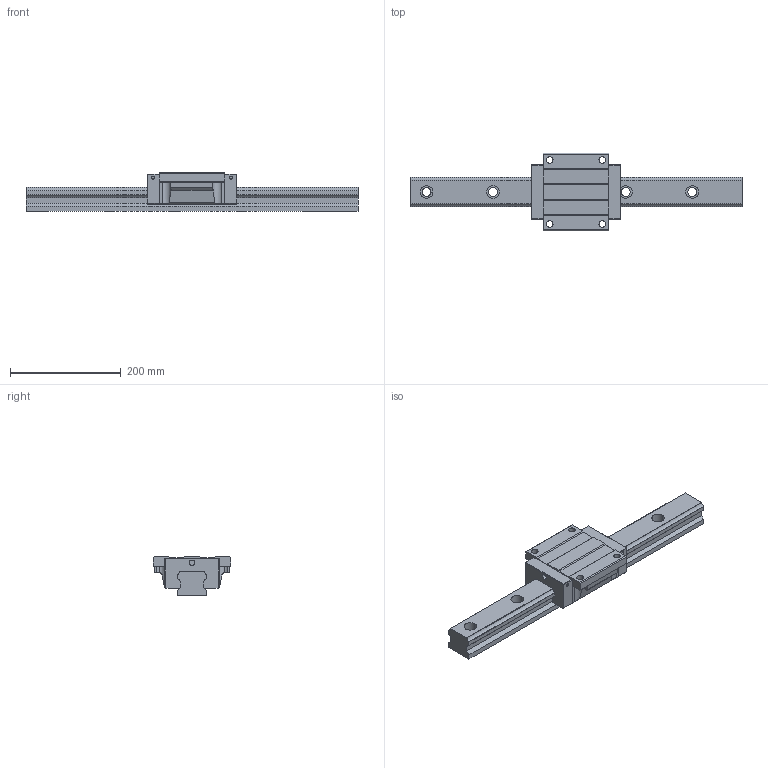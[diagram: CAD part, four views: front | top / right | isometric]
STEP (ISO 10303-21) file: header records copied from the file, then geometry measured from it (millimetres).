
FILE_DESCRIPTION (( 'STEP AP203' ), '1' );
FILE_NAME ('TRH55FL-XN.STEP', '2024-05-13T06:39:51', ( '' ), ( '' ), 'SwSTEP 2.0', 'SolidWorks 2022', '' );
FILE_SCHEMA (( 'CONFIG_CONTROL_DESIGN' ));
Length unit declared in the file: millimetre
Products named in the file (1): TRH55FL-XN
Bounding box: 600 x 140 x 70 mm (x, y, z)
Volume: 1906991.9 mm3; surface area: 219730.4 mm2
Topology: 2 solids, 2 shells, 201 faces, 546 edges, 356 vertices
Faces by surface type: plane 101, cylinder 96, sphere 4
Entity records: 6548 total; most frequent: CARTESIAN_POINT 1257, DIRECTION 1108, ORIENTED_EDGE 1084, EDGE_CURVE 542, AXIS2_PLACEMENT_3D 384, VERTEX_POINT 356, LINE 340, VECTOR 340
